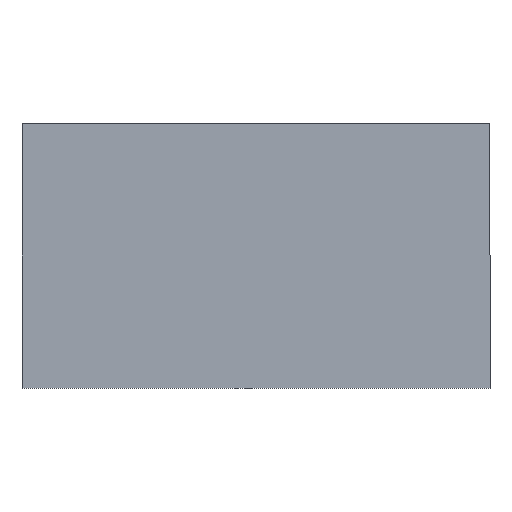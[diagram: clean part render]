
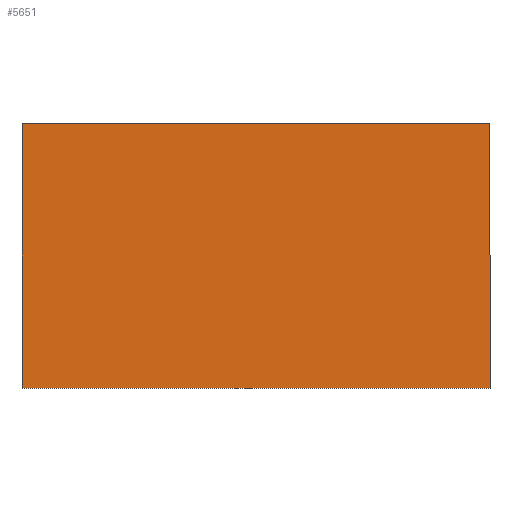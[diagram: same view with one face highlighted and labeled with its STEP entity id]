
A CAD part, front view. The second image highlights one B-rep face of the part: STEP entity #5651.
In plain terms, the highlighted planar face has unit normal (0, -1, 0).
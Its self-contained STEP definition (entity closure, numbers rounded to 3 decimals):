
#160 = FACE_OUTER_BOUND ( 'NONE', #5206, .T. ) ;
#269 = DIRECTION ( 'NONE',  ( 0., 0., -1. ) ) ;
#332 = VECTOR ( 'NONE', #730, 1000. ) ;
#730 = DIRECTION ( 'NONE',  ( 0., 0., 1. ) ) ;
#838 = ORIENTED_EDGE ( 'NONE', *, *, #6875, .T. ) ;
#1253 = PLANE ( 'NONE',  #2691 ) ;
#1354 = CARTESIAN_POINT ( 'NONE',  ( -277.504, -160.689, 156.683 ) ) ;
#1411 = VERTEX_POINT ( 'NONE', #1901 ) ;
#1901 = CARTESIAN_POINT ( 'NONE',  ( -277.504, -160.689, -156.742 ) ) ;
#1929 = ORIENTED_EDGE ( 'NONE', *, *, #3104, .T. ) ;
#1997 = CARTESIAN_POINT ( 'NONE',  ( -277.504, -160.689, 156.683 ) ) ;
#2312 = VECTOR ( 'NONE', #269, 1000. ) ;
#2556 = DIRECTION ( 'NONE',  ( 0., 0., 1. ) ) ;
#2691 = AXIS2_PLACEMENT_3D ( 'NONE', #5431, #7242, #2556 ) ;
#2831 = ORIENTED_EDGE ( 'NONE', *, *, #5079, .T. ) ;
#3104 = EDGE_CURVE ( 'NONE', #5229, #1411, #3134, .T. ) ;
#3134 = LINE ( 'NONE', #7349, #2312 ) ;
#3432 = EDGE_CURVE ( 'NONE', #5490, #6527, #7339, .T. ) ;
#3976 = CARTESIAN_POINT ( 'NONE',  ( 277.478, -160.689, -156.742 ) ) ;
#5014 = CARTESIAN_POINT ( 'NONE',  ( -277.504, -160.689, -156.742 ) ) ;
#5079 = EDGE_CURVE ( 'NONE', #6527, #5229, #6693, .T. ) ;
#5206 = EDGE_LOOP ( 'NONE', ( #1929, #838, #5824, #2831 ) ) ;
#5229 = VERTEX_POINT ( 'NONE', #1997 ) ;
#5287 = CARTESIAN_POINT ( 'NONE',  ( 277.478, -160.689, 156.683 ) ) ;
#5431 = CARTESIAN_POINT ( 'NONE',  ( -0.013, -160.689, -0.03 ) ) ;
#5487 = CARTESIAN_POINT ( 'NONE',  ( 277.478, -160.689, -156.742 ) ) ;
#5490 = VERTEX_POINT ( 'NONE', #3976 ) ;
#5651 = ADVANCED_FACE ( 'NONE', ( #160 ), #1253, .F. ) ;
#5824 = ORIENTED_EDGE ( 'NONE', *, *, #3432, .T. ) ;
#6269 = VECTOR ( 'NONE', #7198, 1000. ) ;
#6429 = DIRECTION ( 'NONE',  ( 1., 0., 0. ) ) ;
#6527 = VERTEX_POINT ( 'NONE', #5287 ) ;
#6693 = LINE ( 'NONE', #1354, #6269 ) ;
#6831 = LINE ( 'NONE', #5014, #7133 ) ;
#6875 = EDGE_CURVE ( 'NONE', #1411, #5490, #6831, .T. ) ;
#7133 = VECTOR ( 'NONE', #6429, 1000. ) ;
#7198 = DIRECTION ( 'NONE',  ( -1., 0., 0. ) ) ;
#7242 = DIRECTION ( 'NONE',  ( 0., 1., 0. ) ) ;
#7339 = LINE ( 'NONE', #5487, #332 ) ;
#7349 = CARTESIAN_POINT ( 'NONE',  ( -277.504, -160.689, -156.742 ) ) ;
